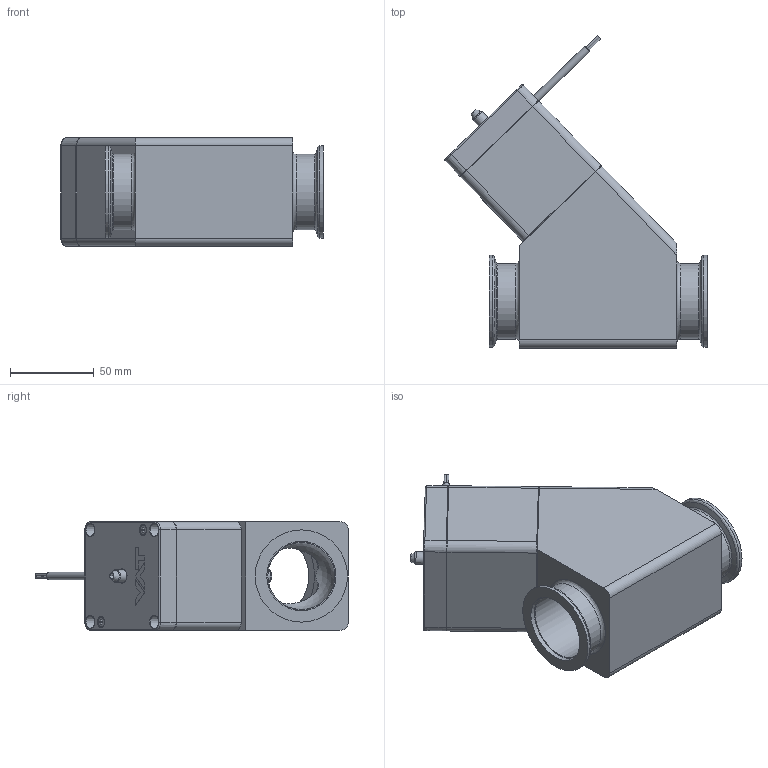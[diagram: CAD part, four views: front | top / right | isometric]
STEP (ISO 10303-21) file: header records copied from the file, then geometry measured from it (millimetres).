
FILE_DESCRIPTION(/* description */ (''),/* implementation_level */ '2;1');
FILE_NAME(/* name */ '1132670173_203.stp',/* time_stamp */ '2013-06-28T09:09:48+02:00',/* author */ (''),/* organization */ (''),/* preprocessor_version */ 'ST-DEVELOPER v11',/* originating_system */ 'SIEMENS PLM Software NX 7.5',/* authorisation */ '');
FILE_SCHEMA (('AP203_CONFIGURATION_CONTROLLED_3D_DESIGN_OF_MECHANICAL_PARTS_AND_ASSEMBLIES_MIM_LF'));
Length unit declared in the file: millimetre
Products named in the file (10): 239888_6.1; 233232; 236208.2; 236204_1.1; 506356; 243875.2; 239737.6; 240792.1; 402933; 700099
Assembly tree (14 placements, depth 3):
  700099
    240792.1  x4
    239737.6
    243875.2
    506356
    402933
      236204_1.1  x2
      236208.2  x2
      233232
      239888_6.1
Bounding box: 156.41 x 186.49 x 65 mm (x, y, z)
Volume: 450251.9 mm3; surface area: 138354.9 mm2
Topology: 21 solids, 21 shells, 653 faces, 1587 edges, 1036 vertices
Faces by surface type: plane 389, cylinder 150, cone 73, bspline 26, torus 11, sphere 4
Full cylindrical faces by diameter (mm): 1.4 x8, 2 x6, 2.2 x4, 2.5 x3, 2.95 x1, 3 x7, 3.26 x4, 3.3 x8, 4 x12, 4.5 x5, 4.6 x2, 4.7 x3, 5 x1, 5.6 x2, 7 x4, 7.4 x1, 8 x7, 9.1 x1, 10 x1, 11.975 x3, 12.012 x1, 12.013 x1, 13.85 x1, 14 x1, 16.555 x1, 36 x1, 40 x2, 40.04 x1, 41.3 x2, 45 x2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
Entity records: 18371 total; most frequent: CARTESIAN_POINT 3915, DIRECTION 2540, ORIENTED_EDGE 2336, EDGE_CURVE 1168, AXIS2_PLACEMENT_3D 903, VERTEX_POINT 855, EDGE_LOOP 785, LINE 734
